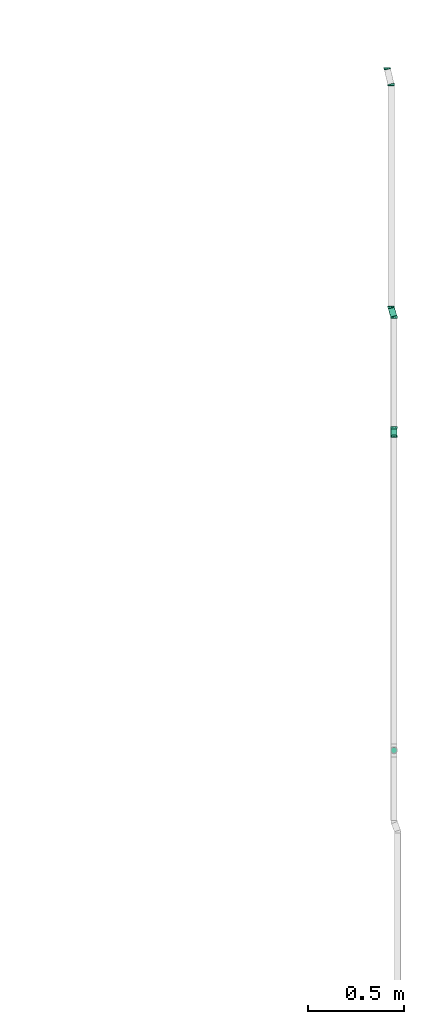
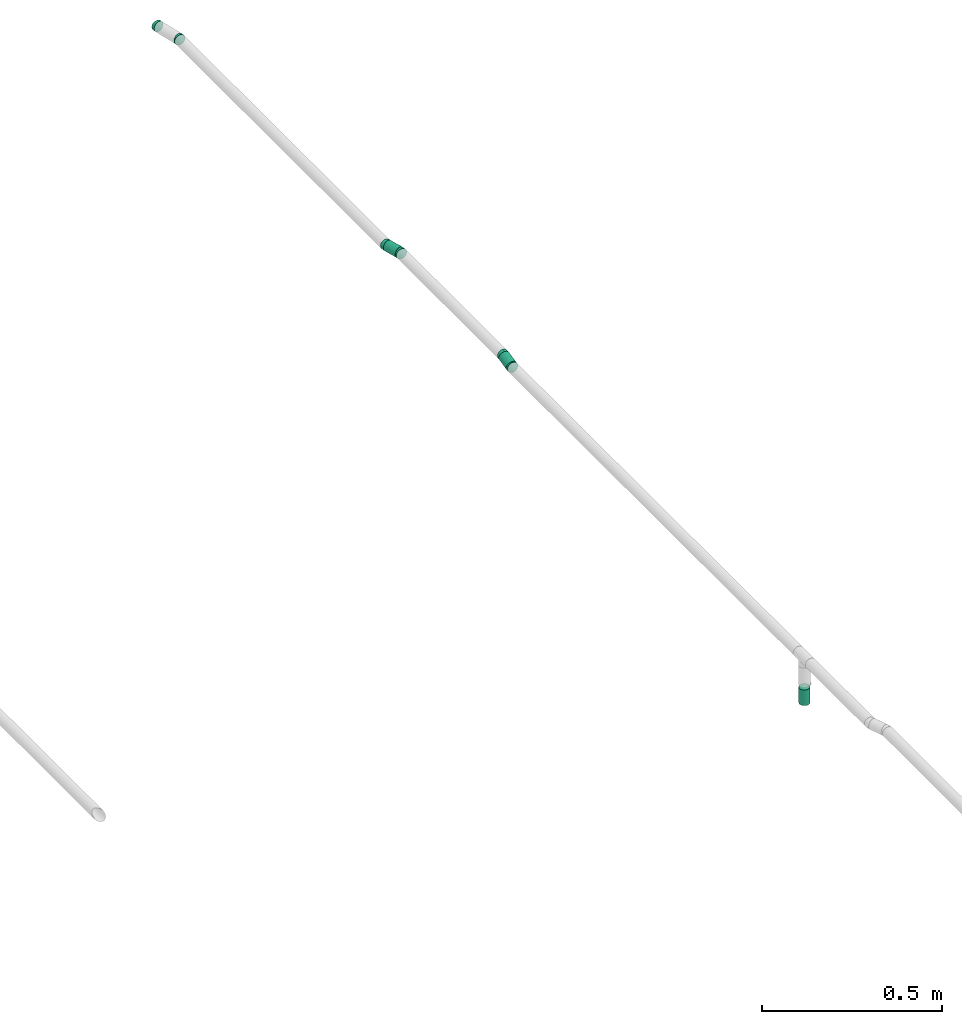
# One storey, part 24 of 32: 6 flow fittings, 2 flow segments, 1 flow terminal.
"""IFC2X3 building model written with IfcOpenShell, lengths in millimetres."""

from ifc_helpers import new_model, entity, si_unit, converted_unit, derived_unit, direction, frame, origin_with_axes, origin_2d_with_axis, place, context, subcontext, project, spatial, hollow_circle, extrude, open_shell, surface_model, source, transform, mapped, type_object, element, save


model = new_model("IFC2X3")

# Units and contexts
model_context = context("Model", 3, precision=0.01, world=frame((0.0, 4.29681676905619e-09, 0.0)), true_north=direction((4.01073788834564e-13, 1.0)))
plan_context = context("Plan", 3, precision=0.01, world=frame((0.0, 4.29681676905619e-09, 0.0)), true_north=direction((4.01073788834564e-13, 1.0)))
body_context = subcontext(model_context, "Body", "Model", "MODEL_VIEW")
ifc_project = project(units=[converted_unit("PLANEANGLEUNIT", "DEGREE", entity("IfcPositiveLengthMeasure", 0.0174532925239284), si_unit("PLANEANGLEUNIT", "RADIAN"), dimensions=[0, 0, 0, 0, 0, 0, 0]), si_unit("AREAUNIT", "SQUARE_METRE"), si_unit("LENGTHUNIT", "METRE", prefix="MILLI"), si_unit("MASSUNIT", "GRAM", prefix="KILO"), si_unit("POWERUNIT", "WATT"), si_unit("PRESSUREUNIT", "PASCAL", prefix="KILO"), si_unit("FORCEUNIT", "NEWTON", prefix="KILO"), si_unit("ELECTRICVOLTAGEUNIT", "VOLT"), si_unit("ELECTRICCURRENTUNIT", "AMPERE"), si_unit("THERMODYNAMICTEMPERATUREUNIT", "DEGREE_CELSIUS"), si_unit("TIMEUNIT", "SECOND"), si_unit("VOLUMEUNIT", "CUBIC_METRE"), derived_unit("LINEARVELOCITYUNIT", [(si_unit("LENGTHUNIT", "METRE"), 1), (si_unit("TIMEUNIT", "SECOND"), -1)]), derived_unit("VOLUMETRICFLOWRATEUNIT", [(si_unit("VOLUMEUNIT", "CUBIC_METRE"), 1), (si_unit("TIMEUNIT", "SECOND"), -1)]), derived_unit("THERMALTRANSMITTANCEUNIT", [(si_unit("POWERUNIT", "WATT"), 1), (si_unit("THERMODYNAMICTEMPERATUREUNIT", "KELVIN"), -1), (si_unit("AREAUNIT", "SQUARE_METRE"), -1)]), derived_unit("SOUNDPRESSUREUNIT", [(si_unit("PRESSUREUNIT", "PASCAL"), 1)])], contexts=[model_context, plan_context])

# Site, building, storey
site_placement = place(None, frame((0.0, -4.29681676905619e-09, 0.0), z_axis=(0.0, 0.0, 1.0), x_axis=(1.0, 0.0, 0.0)))
site = spatial("IfcSite", under=ifc_project, at=site_placement, CompositionType="ELEMENT")
building_placement = place(site_placement, frame((0.0, 4.29681676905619e-09, 0.0), z_axis=(0.0, 0.0, 1.0), x_axis=(1.0, 0.0, 0.0)))
building = spatial("IfcBuilding", under=site, at=building_placement, Name="mc-building", CompositionType="ELEMENT")
storey_placement = place(building_placement, frame((0.0, 0.0, 205200.0), z_axis=(0.0, 0.0, 1.0), x_axis=(1.0, 0.0, 0.0)))
storey = spatial("IfcBuildingStorey", under=building, at=storey_placement, Name="Nivå D + 1,2 m", CompositionType="ELEMENT", Elevation=205200.0)

# Flow fittings
pipe_fitting_type = type_object("IfcPipeFittingType", Name="magi_pipe_fe_elbow_short_001", PredefinedType="BEND")
shared_shape_1 = source(origin_with_axes(), body_context, "Body", "SurfaceModel", [
    surface_model("IfcShellBasedSurfaceModel", [(-3.7103, 4.37404, -16.32415), (-3.7103, 0.0, -16.9), (-3.7103, 11.9501, -11.9501), (-3.7103, 8.45, -14.63583), (-3.7103, 16.32415, -4.37404), (-3.7103, 14.63583, -8.45), (-3.7103, -14.63583, -8.45), (-3.7103, -16.32415, -4.37404), (-3.7103, -8.45, 14.63583), (-3.7103, -11.9501, -11.9501), (-3.7103, -8.45, -14.63583), (-3.7103, -4.37404, -16.32415), (-3.7103, -16.9, 0.0), (-3.7103, -16.32415, 4.37404), (-3.7103, 11.9501, 11.9501), (-3.7103, 16.32415, 4.37404), (-3.7103, 14.63583, 8.45), (-3.7103, 4.37404, 16.32415), (-3.7103, 8.45, 14.63583), (-3.7103, -14.63583, 8.45), (-3.7103, -11.9501, 11.9501), (-3.7103, -4.37404, 16.32415), (-3.7103, 0.0, 16.9), (-3.7103, 16.9, 0.0), (1.02961, 12.47041, -11.9501), (3.62195, 0.80488, -16.9), (2.67309, 5.07476, -16.32415), (1.78889, 9.05366, -14.63583), (0.44699, 15.09218, -8.45), (0.08074, 16.7403, -4.37404), (6.79691, -13.48243, -8.45), (1.02961, 12.47041, 11.9501), (5.45501, -7.4439, -14.63583), (6.21429, -10.86066, -11.9501), (4.57081, -3.46501, -16.32415), (6.79691, -13.48243, 8.45), (7.16315, -15.13054, -4.37404), (7.16315, -15.13054, 4.37404), (7.28807, -15.69268, 0.0), (0.08074, 16.7403, 4.37404), (0.44699, 15.09218, 8.45), (1.78889, 9.05366, 14.63583), (2.67309, 5.07476, 16.32415), (5.45501, -7.4439, 14.63583), (3.62195, 0.80488, 16.9), (6.21429, -10.86066, 11.9501), (4.57081, -3.46501, 16.32415), (-0.04418, 17.30244, 0.0), (-1.86623, 17.00091, 0.0), (1.82192, -16.59727, 0.0)], [open_shell([[[0, 1, 2]], [[3, 0, 2]], [[4, 5, 2]], [[6, 2, 1]], [[2, 7, 8]], [[9, 6, 10]], [[1, 11, 10]], [[1, 10, 6]], [[6, 7, 2]], [[12, 13, 7]], [[4, 2, 14]], [[14, 15, 4]], [[16, 15, 14]], [[17, 18, 14]], [[2, 8, 14]], [[17, 14, 8]], [[19, 20, 13]], [[13, 20, 7]], [[21, 22, 8]], [[20, 8, 7]], [[8, 22, 17]], [[23, 4, 15]], [[24, 25, 26]], [[24, 26, 27]], [[24, 28, 29]], [[25, 24, 30]], [[24, 31, 30]], [[32, 30, 33]], [[30, 32, 34]], [[25, 30, 34]], [[30, 35, 36]], [[36, 37, 38]], [[39, 24, 29]], [[24, 39, 31]], [[31, 39, 40]], [[31, 41, 42]], [[43, 30, 31]], [[44, 31, 42]], [[35, 43, 45]], [[37, 36, 35]], [[43, 44, 46]], [[35, 30, 43]], [[44, 43, 31]], [[47, 39, 29]], [[20, 19, 35]], [[13, 37, 19]], [[44, 22, 21]], [[22, 42, 17]], [[8, 46, 21]], [[8, 20, 43]], [[16, 14, 40]], [[18, 31, 14]], [[48, 15, 39]], [[48, 23, 15]], [[39, 15, 16]], [[41, 18, 17]], [[13, 12, 49]], [[43, 46, 8]], [[20, 45, 43]], [[46, 44, 21]], [[35, 19, 37]], [[45, 20, 35]], [[37, 49, 38]], [[40, 39, 16]], [[47, 48, 39]], [[41, 17, 42]], [[18, 41, 31]], [[40, 14, 31]], [[42, 22, 44]], [[13, 49, 37]], [[0, 25, 1]], [[34, 11, 1]], [[28, 2, 5]], [[2, 24, 3]], [[26, 0, 3]], [[5, 4, 29]], [[49, 12, 7]], [[36, 49, 7]], [[33, 9, 10]], [[7, 6, 36]], [[9, 30, 6]], [[32, 10, 11]], [[4, 23, 48]], [[48, 47, 29]], [[29, 28, 5]], [[3, 24, 27]], [[3, 27, 26]], [[2, 28, 24]], [[26, 25, 0]], [[32, 11, 34]], [[33, 10, 32]], [[6, 30, 36]], [[36, 38, 49]], [[30, 9, 33]], [[25, 34, 1]], [[4, 48, 29]]])]),
])
for number, where, z_axis, x_axis, name in (
    (1, (347592.5, 465633.56745, 4444.43145999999), (1.0, 0.0, 0.0), (0.0, -1.0, 0.0), "magi_pipe_fe_elbow_short_001"),
    (2, (347592.5, 465584.86157, 4433.60793), (1.0, 0.0, 0.0), (0.0, 1.0, 0.0), "magi_pipe_fe_elbow_short_001"),
):
    element("IfcFlowFitting", number, at=place(storey_placement, frame(where, z_axis=z_axis, x_axis=x_axis)), inside=storey, type_object=pipe_fitting_type, Name=name, context=body_context, shape_type="MappedRepresentation", body=[
        mapped(shared_shape_1, transform((0.0, 0.0, 0.0), scale=1.0)),
    ])
shared_shape_2 = source(origin_with_axes(), body_context, "Body", "SurfaceModel", [
    surface_model("IfcShellBasedSurfaceModel", [(-3.92614, 4.37404, -16.32415), (-3.92614, 0.0, -16.9), (-3.92614, 11.9501, -11.9501), (-3.92614, 8.45, -14.63583), (-3.92614, 16.32415, -4.37404), (-3.92614, 14.63583, -8.45), (-3.92614, -14.63583, -8.45), (-3.92614, -16.32415, -4.37404), (-3.92614, -8.45, 14.63583), (-3.92614, -11.9501, -11.9501), (-3.92614, -8.45, -14.63583), (-3.92614, -4.37404, -16.32415), (-3.92614, -16.9, 0.0), (-3.92614, -16.32415, 4.37404), (-3.92614, 11.9501, 11.9501), (-3.92614, 16.32415, 4.37404), (-3.92614, 14.63583, 8.45), (-3.92614, 4.37404, 16.32415), (-3.92614, 8.45, 14.63583), (-3.92614, -14.63583, 8.45), (-3.92614, -11.9501, 11.9501), (-3.92614, -4.37404, 16.32415), (-3.92614, 0.0, 16.9), (-3.92614, 16.9, 0.0), (2.81897, 5.15754, -16.32415), (7.17648, -13.34617, -8.45), (3.8216, 0.89996, -16.9), (1.88467, 9.12497, -14.63583), (1.08236, 12.53188, 11.9501), (1.08236, 12.53188, -11.9501), (0.46673, 15.1461, -8.45), (0.07973, 16.78946, -4.37404), (5.75854, -7.32505, -14.63583), (4.82424, -3.35761, -16.32415), (6.56085, -10.73196, -11.9501), (7.69548, -15.55006, 0.0), (7.56348, -14.98953, -4.37404), (7.17648, -13.34617, 8.45), (0.07973, 16.78946, 4.37404), (0.46673, 15.1461, 8.45), (1.88467, 9.12497, 14.63583), (2.81897, 5.15754, 16.32415), (6.56085, -10.73196, 11.9501), (3.8216, 0.89996, 16.9), (7.56348, -14.98953, 4.37404), (5.75854, -7.32505, 14.63583), (4.82424, -3.35761, 16.32415), (-0.05227, 17.34998, 0.0), (-1.97618, 17.01287, 0.0), (1.92374, -16.56138, 0.0)], [open_shell([[[0, 1, 2]], [[3, 0, 2]], [[4, 5, 2]], [[6, 2, 1]], [[2, 7, 8]], [[9, 6, 10]], [[1, 11, 10]], [[1, 10, 6]], [[6, 7, 2]], [[12, 13, 7]], [[4, 2, 14]], [[14, 15, 4]], [[16, 15, 14]], [[17, 18, 14]], [[2, 8, 14]], [[17, 14, 8]], [[19, 20, 13]], [[13, 20, 7]], [[21, 22, 8]], [[20, 8, 7]], [[8, 22, 17]], [[23, 4, 15]], [[24, 25, 26]], [[27, 28, 24]], [[29, 30, 31]], [[27, 29, 28]], [[28, 25, 24]], [[26, 32, 33]], [[26, 34, 32]], [[25, 35, 36]], [[34, 26, 25]], [[25, 37, 35]], [[29, 31, 38]], [[38, 28, 29]], [[28, 38, 39]], [[28, 40, 41]], [[28, 42, 25]], [[43, 28, 41]], [[42, 37, 25]], [[44, 35, 37]], [[45, 43, 46]], [[45, 42, 28]], [[45, 28, 43]], [[38, 31, 47]], [[37, 19, 13]], [[42, 20, 19]], [[43, 22, 21]], [[21, 8, 46]], [[17, 22, 41]], [[20, 45, 8]], [[16, 14, 39]], [[18, 28, 14]], [[48, 15, 38]], [[48, 23, 15]], [[38, 15, 16]], [[40, 18, 17]], [[13, 12, 49]], [[45, 46, 8]], [[20, 42, 45]], [[46, 43, 21]], [[35, 44, 49]], [[42, 19, 37]], [[37, 13, 44]], [[39, 38, 16]], [[47, 48, 38]], [[40, 17, 41]], [[18, 40, 28]], [[39, 14, 28]], [[41, 22, 43]], [[13, 49, 44]], [[26, 1, 0]], [[33, 11, 1]], [[30, 2, 5]], [[2, 29, 3]], [[24, 0, 3]], [[4, 31, 5]], [[49, 12, 7]], [[36, 49, 7]], [[34, 9, 10]], [[7, 6, 36]], [[9, 25, 6]], [[32, 10, 11]], [[4, 23, 48]], [[48, 47, 31]], [[31, 30, 5]], [[27, 3, 29]], [[24, 3, 27]], [[2, 30, 29]], [[24, 26, 0]], [[32, 11, 33]], [[34, 10, 32]], [[6, 25, 36]], [[36, 35, 49]], [[25, 9, 34]], [[26, 33, 1]], [[4, 48, 31]]])]),
])
for number, where, z_axis, x_axis, name in (
    (3, (347557.5, 467493.49547, 4444.43145999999), (0.0, 0.0, 1.0), (0.0, -1.0, 0.0), "magi_pipe_fe_elbow_short_001"),
    (4, (347577.5, 467408.56745, 4444.43145999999), (0.0, 0.0, 1.0), (0.0, 1.0, 0.0), "magi_pipe_fe_elbow_short_001"),
):
    element("IfcFlowFitting", number, at=place(storey_placement, frame(where, z_axis=z_axis, x_axis=x_axis)), inside=storey, type_object=pipe_fitting_type, Name=name, context=body_context, shape_type="MappedRepresentation", body=[
        mapped(shared_shape_2, transform((0.0, 0.0, 0.0), scale=1.0)),
    ])
shared_shape_3 = source(origin_with_axes(), body_context, "Body", "SurfaceModel", [
    surface_model("IfcShellBasedSurfaceModel", [(-4.63116, 4.37404, -16.32415), (-4.63116, 0.0, -16.9), (-4.63116, 11.9501, -11.9501), (-4.63116, 8.45, -14.63583), (-4.63116, 16.32415, -4.37404), (-4.63116, 14.63583, -8.45), (-4.63116, -14.63583, -8.45), (-4.63116, -16.32415, -4.37404), (-4.63116, -8.45, 14.63583), (-4.63116, -11.9501, -11.9501), (-4.63116, -8.45, -14.63583), (-4.63116, -4.37404, -16.32415), (-4.63116, -16.9, 0.0), (-4.63116, -16.32415, 4.37404), (-4.63116, 11.9501, 11.9501), (-4.63116, 16.32415, 4.37404), (-4.63116, 14.63583, 8.45), (-4.63116, 4.37404, 16.32415), (-4.63116, 8.45, 14.63583), (-4.63116, -14.63583, 8.45), (-4.63116, -11.9501, 11.9501), (-4.63116, -4.37404, 16.32415), (-4.63116, 0.0, 16.9), (-4.63116, 16.9, 0.0), (3.28393, 5.45854, -16.32415), (6.73338, -6.89287, -14.63583), (4.46048, 1.2457, -16.9), (0.06955, 16.96822, -4.37404), (2.18757, 9.38428, -14.63583), (1.2461, 12.75539, -11.9501), (0.52368, 15.34213, -8.45), (8.8514, -14.47681, -4.37404), (7.67485, -10.26398, -11.9501), (5.63702, -2.96713, -16.32415), (8.39727, -12.85072, -8.45), (8.8514, -14.47681, 4.37404), (9.00629, -15.03144, 0.0), (-0.08534, 17.52285, 0.0), (0.06955, 16.96822, 4.37404), (0.52368, 15.34213, 8.45), (1.2461, 12.75539, 11.9501), (2.18757, 9.38428, 14.63583), (3.28393, 5.45854, 16.32415), (6.73338, -6.89287, 14.63583), (4.46048, 1.2457, 16.9), (7.67485, -10.26398, 11.9501), (8.39727, -12.85072, 8.45), (5.63702, -2.96713, 16.32415), (-2.33701, 17.05644, 0.0), (2.25128, -16.43069, 0.0)], [open_shell([[[0, 1, 2]], [[3, 0, 2]], [[4, 5, 2]], [[6, 2, 1]], [[2, 7, 8]], [[9, 6, 10]], [[1, 11, 10]], [[1, 10, 6]], [[6, 7, 2]], [[12, 13, 7]], [[4, 2, 14]], [[14, 15, 4]], [[16, 15, 14]], [[17, 18, 14]], [[2, 8, 14]], [[17, 14, 8]], [[19, 20, 13]], [[13, 20, 7]], [[21, 22, 8]], [[20, 8, 7]], [[8, 22, 17]], [[23, 4, 15]], [[24, 25, 26]], [[27, 24, 28]], [[29, 30, 27]], [[29, 27, 28]], [[25, 24, 27]], [[25, 31, 32]], [[25, 33, 26]], [[32, 31, 34]], [[27, 31, 25]], [[31, 35, 36]], [[31, 27, 37]], [[37, 38, 39]], [[37, 39, 40]], [[40, 41, 42]], [[37, 40, 43]], [[44, 40, 42]], [[35, 45, 46]], [[31, 45, 35]], [[43, 44, 47]], [[45, 31, 43]], [[44, 43, 40]], [[31, 37, 43]], [[8, 20, 43]], [[20, 19, 45]], [[47, 21, 8]], [[44, 22, 21]], [[17, 22, 42]], [[46, 19, 13]], [[16, 14, 39]], [[18, 40, 14]], [[48, 15, 38]], [[48, 23, 15]], [[38, 15, 16]], [[41, 18, 17]], [[13, 12, 49]], [[43, 47, 8]], [[20, 45, 43]], [[47, 44, 21]], [[46, 13, 35]], [[19, 46, 45]], [[49, 36, 35]], [[39, 38, 16]], [[37, 48, 38]], [[41, 17, 42]], [[18, 41, 40]], [[39, 14, 40]], [[42, 22, 44]], [[13, 49, 35]], [[1, 33, 11]], [[0, 26, 1]], [[5, 30, 2]], [[2, 28, 3]], [[0, 3, 24]], [[5, 4, 27]], [[49, 12, 7]], [[31, 49, 7]], [[32, 9, 10]], [[7, 6, 31]], [[9, 34, 6]], [[25, 10, 11]], [[4, 23, 48]], [[48, 37, 27]], [[27, 30, 5]], [[28, 2, 29]], [[24, 3, 28]], [[2, 30, 29]], [[24, 26, 0]], [[25, 11, 33]], [[32, 10, 25]], [[6, 34, 31]], [[31, 36, 49]], [[34, 9, 32]], [[26, 33, 1]], [[4, 48, 27]]])]),
])
for number, where, z_axis, x_axis, name in (
    (5, (347577.5, 466257.27775, 4444.43145999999), (0.0, 0.0, 1.0), (0.0, -1.0, 0.0), "magi_pipe_fe_elbow_short_001"),
    (6, (347592.5, 466203.56745, 4444.43145999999), (0.0, 0.0, 1.0), (0.0, 1.0, 0.0), "magi_pipe_fe_elbow_short_001"),
):
    element("IfcFlowFitting", number, at=place(storey_placement, frame(where, z_axis=z_axis, x_axis=x_axis)), inside=storey, type_object=pipe_fitting_type, Name=name, context=body_context, shape_type="MappedRepresentation", body=[
        mapped(shared_shape_3, transform((0.0, 0.0, 0.0), scale=1.0)),
    ])

# Flow segments
pipe_segment_type = type_object("IfcPipeSegmentType", Name="Stålrør normaltykke", PredefinedType="RIGIDSEGMENT")
shared_shape_4 = source(origin_with_axes(), body_context, "Body", "SweptSolid", [
    extrude(hollow_circle(Radius=16.9, WallThickness=2.0, at=origin_2d_with_axis()), frame((0.0, 0.0, 0.0), z_axis=(1.0, 0.0, 0.0), x_axis=(0.0, 1.0, 0.0)), (0.0, 0.0, 1.0), 42.2),
])
flow_segment_1_placement = place(storey_placement, frame((347592.5, 465629.9455, 4443.62658000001), z_axis=(0.0, -0.216930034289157, 0.976187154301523), x_axis=(0.0, -0.976187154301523, -0.216930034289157)))
element("IfcFlowSegment", 7, at=flow_segment_1_placement, inside=storey, type_object=pipe_segment_type, Name="Stålrør normaltykke", context=body_context, shape_type="MappedRepresentation", body=[
    mapped(shared_shape_4, transform((0.0, 0.0, 0.0), scale=1.0)),
])
shared_shape_5 = source(origin_with_axes(), body_context, "Body", "SweptSolid", [
    extrude(hollow_circle(Radius=16.9, WallThickness=2.0, at=origin_2d_with_axis()), frame((0.0, 0.0, 0.0), z_axis=(1.0, 0.0, 0.0), x_axis=(0.0, 1.0, 0.0)), (0.0, 0.0, 1.0), 46.0),
])
flow_segment_2_placement = place(storey_placement, frame((347578.7457, 466252.81727, 4444.43145999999), z_axis=(0.0, 0.0, 1.0), x_axis=(0.268982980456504, -0.963144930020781, 0.0)))
element("IfcFlowSegment", 8, at=flow_segment_2_placement, inside=storey, type_object=pipe_segment_type, Name="Stålrør normaltykke", context=body_context, shape_type="MappedRepresentation", body=[
    mapped(shared_shape_5, transform((0.0, 0.0, 0.0), scale=1.0)),
])

# Flow terminal
fire_suppression_terminal_type = type_object("IfcFireSuppressionTerminalType", Name="SP-15-K80-68DGR-STD-NEDOVER", PredefinedType="NOTDEFINED")
shared_shape_6 = source(origin_with_axes(), body_context, "Body", "SurfaceModel", [
    surface_model("IfcShellBasedSurfaceModel", [(4.1411, -15.45481, 53.0), (8.0, -13.85641, 53.0), (11.31371, -11.31371, 53.0), (-8.0, -13.85641, 53.0), (15.45481, -4.1411, 53.0), (16.0, 0.0, 53.0), (13.85641, -8.0, 53.0), (0.0, -16.0, 53.0), (-4.1411, -15.45481, 53.0), (-13.85641, -8.0, 53.0), (-11.31371, -11.31371, 53.0), (-15.45481, -4.1411, 53.0), (15.45481, 4.1411, 53.0), (13.85641, 8.0, 53.0), (11.31371, 11.31371, 53.0), (-4.1411, 15.45481, 53.0), (8.0, 13.85641, 53.0), (4.1411, 15.45481, 53.0), (0.0, 16.0, 53.0), (-13.85641, 8.0, 53.0), (-15.45481, 4.1411, 53.0), (-16.0, 0.0, 53.0), (-11.31371, 11.31371, 53.0), (-8.0, 13.85641, 53.0), (0.0, 16.0, 0.0), (4.1411, 15.45481, 0.0), (8.0, 13.85641, 0.0), (-4.1411, 15.45481, 0.0), (11.31371, 11.31371, 0.0), (13.85641, 8.0, 0.0), (15.45481, 4.1411, 0.0), (-15.45481, -4.1411, 0.0), (-11.31371, 11.31371, 0.0), (-8.0, 13.85641, 0.0), (-13.85641, 8.0, 0.0), (-15.45481, 4.1411, 0.0), (-16.0, 0.0, 0.0), (4.1411, -15.45481, 0.0), (16.0, 0.0, 0.0), (15.45481, -4.1411, 0.0), (13.85641, -8.0, 0.0), (11.31371, -11.31371, 0.0), (8.0, -13.85641, 0.0), (-8.0, -13.85641, 0.0), (-13.85641, -8.0, 0.0), (-11.31371, -11.31371, 0.0), (0.0, -16.0, 0.0), (-4.1411, -15.45481, 0.0)], [open_shell([[[0, 1, 2]], [[3, 0, 2]], [[4, 5, 2]], [[4, 2, 6]], [[3, 2, 5]], [[7, 3, 8]], [[7, 0, 3]], [[3, 9, 10]], [[9, 3, 11]], [[5, 11, 3]], [[5, 12, 11]], [[12, 13, 14]], [[15, 12, 14]], [[16, 17, 18]], [[14, 16, 15]], [[18, 15, 16]], [[11, 19, 20]], [[21, 11, 20]], [[22, 15, 23]], [[15, 22, 19]], [[19, 11, 15]], [[11, 12, 15]], [[24, 25, 26]], [[27, 24, 26]], [[28, 29, 30]], [[27, 26, 28]], [[27, 28, 31]], [[27, 32, 33]], [[32, 27, 34]], [[34, 31, 35]], [[31, 34, 27]], [[35, 31, 36]], [[28, 30, 31]], [[37, 38, 39]], [[37, 39, 40]], [[41, 42, 37]], [[41, 37, 40]], [[38, 37, 43]], [[44, 43, 45]], [[43, 44, 31]], [[43, 46, 47]], [[43, 31, 38]], [[37, 46, 43]], [[38, 31, 30]], [[11, 31, 44]], [[45, 9, 44]], [[3, 43, 47]], [[45, 43, 10]], [[8, 47, 46]], [[31, 21, 36]], [[31, 11, 21]], [[44, 9, 11]], [[45, 10, 9]], [[3, 10, 43]], [[47, 8, 3]], [[46, 7, 8]], [[0, 37, 42]], [[41, 1, 42]], [[6, 40, 39]], [[41, 40, 2]], [[4, 39, 38]], [[37, 0, 7]], [[42, 1, 0]], [[41, 2, 1]], [[40, 6, 2]], [[4, 6, 39]], [[38, 5, 4]], [[37, 7, 46]], [[12, 38, 30]], [[13, 30, 29]], [[16, 26, 25]], [[17, 25, 24]], [[30, 13, 12]], [[12, 5, 38]], [[28, 14, 13]], [[28, 26, 14]], [[14, 26, 16]], [[25, 17, 16]], [[28, 13, 29]], [[24, 18, 17]], [[15, 27, 33]], [[32, 23, 33]], [[19, 34, 35]], [[32, 34, 22]], [[20, 35, 36]], [[27, 15, 18]], [[33, 23, 15]], [[32, 22, 23]], [[34, 19, 22]], [[20, 19, 35]], [[36, 21, 20]], [[27, 18, 24]]])]),
])
flow_terminal_placement = place(storey_placement, frame((347592.5, 463959.76745, 4333.43145999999), z_axis=(0.0, 0.0, -1.0), x_axis=(1.0, 0.0, 0.0)))
element("IfcFlowTerminal", 9, at=flow_terminal_placement, inside=storey, type_object=fire_suppression_terminal_type, Name="SP-15-K80-68DGR-STD-NEDOVER", context=body_context, shape_type="MappedRepresentation", body=[
    mapped(shared_shape_6, transform((0.0, 0.0, 0.0), scale=1.0)),
])

save(model, "model.ifc")
